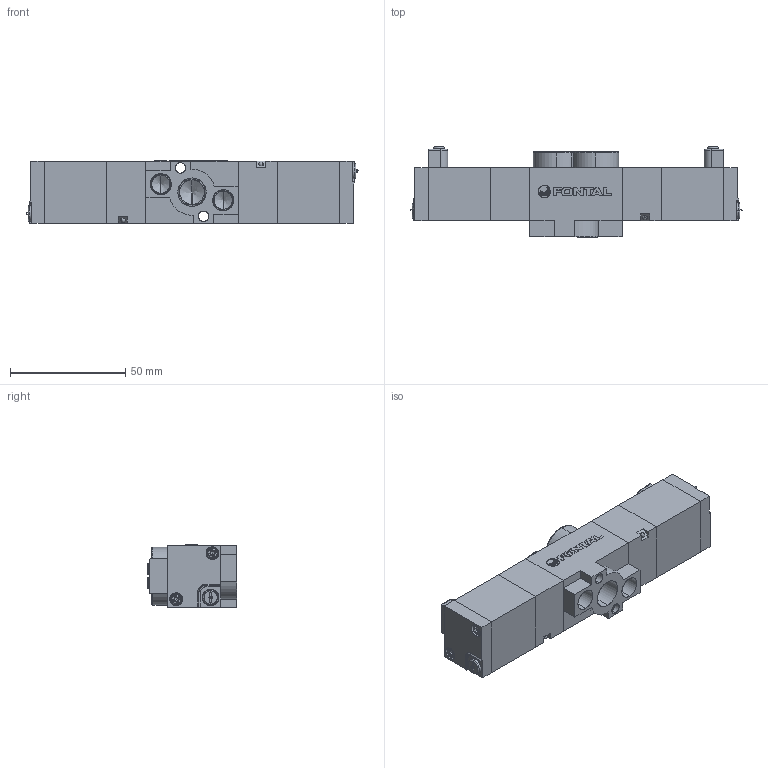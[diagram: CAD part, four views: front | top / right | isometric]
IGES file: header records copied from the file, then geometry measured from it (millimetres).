
Start section: SolidWorks IGES file using analytic representation for surfaces
Global section: file name: D:\Custom\3D繪製\PC\RC06\RCD2406-02-#L##.IGS,1; native system: 5HSolidWorks 2014; preprocessor: SolidWorks 2014; author: Chieh_Lu; date: 150803.214711; units: millimetre
Bounding box: 143.95 x 39 x 27.15 mm (x, y, z)
Surface area: 30532 mm2 (no closed solid volume)
Topology: 0 solids, 0 shells, 505 faces, 5314 edges, 5284 vertices
Faces by surface type: bspline 314, revolution 191
